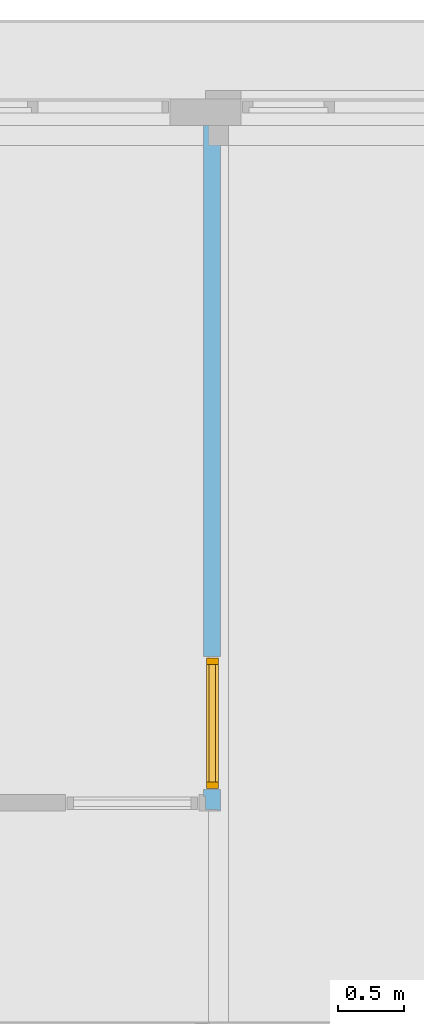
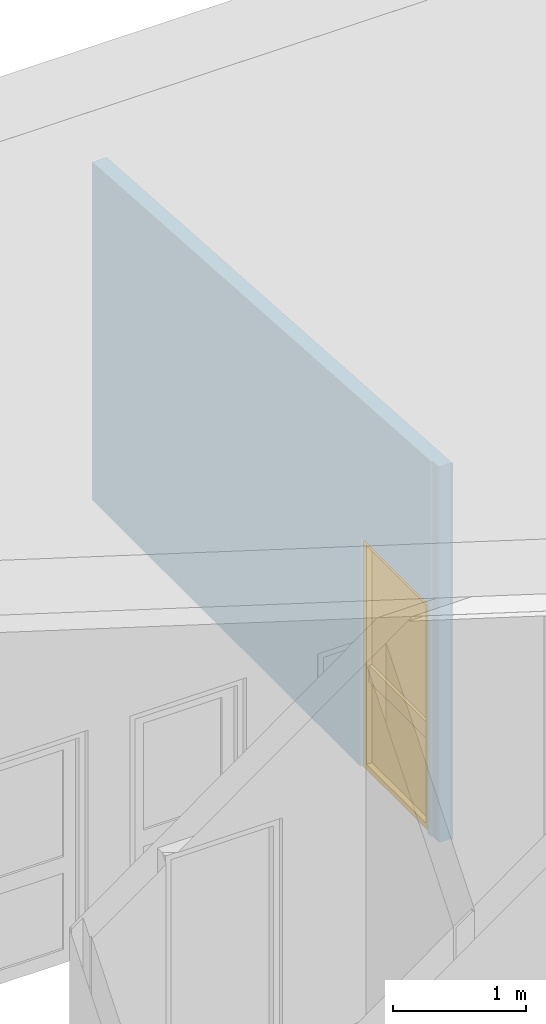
# One storey, part 24 of 37: 1 window, 1 opening, plus 1 element that does not belong to this part.
"""IFC2X3 building model written with IfcOpenShell, lengths in millimetres."""

from ifc_helpers import new_model, entity, si_unit, converted_unit, frame, frame_2d, origin, origin_with_axes, place, context, subcontext, project, spatial, polyline, rectangle, outline, extrude, clip, halfspace, faceted_brep, material, layer, layer_set, layer_usage, type_object, element, fill, save


model = new_model("IFC2X3")

# Units and contexts
model_context = context("Model", 3, precision=1e-05, world=origin())
plan_context = context("Plan", 3, precision=1e-05, world=origin())
body_context = subcontext(model_context, "Body", "Model", "MODEL_VIEW")
ifc_project = project(units=[si_unit("LENGTHUNIT", "METRE", prefix="MILLI"), converted_unit("PLANEANGLEUNIT", "DEGREE", entity("IfcPlaneAngleMeasure", 0.0174532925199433), si_unit("PLANEANGLEUNIT", "RADIAN"), dimensions=[0, 0, 0, 0, 0, 0, 0]), si_unit("AREAUNIT", "SQUARE_METRE"), si_unit("VOLUMEUNIT", "CUBIC_METRE")], contexts=[model_context, plan_context])

# Building, storey
building_placement = place(None, origin())
building = spatial("IfcBuilding", under=ifc_project, at=building_placement, Name="HEKF Administrasjonbygg", CompositionType="ELEMENT")
storey_placement = place(building_placement, frame((0.0, 0.0, 9900.0), z_axis=(0.0, 0.0, 1.0), x_axis=(1.0, 0.0, 0.0)))
storey = spatial("IfcBuildingStorey", under=building, at=storey_placement, Name="Plan 2", CompositionType="ELEMENT", Elevation=9900.0)

# Wall, opening, window
ifc_material_1 = material(Name="gips")
ifc_layer_1 = layer(ifc_material_1, 13.0)
ifc_material_2 = material(Name="riegel stål 100")
ifc_layer_2 = layer(ifc_material_2, 100.0)
ifc_material_3 = material(Name="gips")
ifc_layer_3 = layer(ifc_material_3, 13.0)
ifc_layer_set = layer_set([ifc_layer_1, ifc_layer_2, ifc_layer_3])
ifc_layer_usage = layer_usage(ifc_layer_set, "AXIS2", "POSITIVE", 0.0)
wall_placement = place(storey_placement, frame((25013.0, -5201.0, 0.0), z_axis=(0.0, 0.0, 1.0), x_axis=(0.0, 1.0, 0.0)))
wall = element("IfcWallStandardCase", 1, at=wall_placement, inside=storey, material=ifc_layer_usage, context=body_context, shape_type="Clipping", body=[
    clip(extrude(outline(polyline([(113.0, 126.0), (113.0, 113.0), (13.0, 113.0), (13.0, 13.0), (0.0, 13.0), (0.0, 0.0), (5201.0, 0.0), (5201.0, 126.0), (113.0, 126.0)])), origin_with_axes(), (0.0, 0.0, 1.0), 3446.733333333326), halfspace(frame((0.0, 0.0, 3446.733333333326), z_axis=(-0.06651901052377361, 1.85606354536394e-15, -0.9977851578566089), x_axis=(0.9977851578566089, 0.0, -0.06651901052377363)), True)),
])
opening_placement = place(wall_placement, frame((163.0, 0.0, 0.0), z_axis=(0.0, 1.0, 0.0), x_axis=(0.0, 0.0, 1.0)))
opening = element("IfcOpeningElement", 2, at=opening_placement, cuts=wall, Name="Window opening", ObjectType="Opening", context=body_context, shape_type="SweptSolid", body=[
    extrude(rectangle(XDim=2110.0, YDim=1010.0, at=frame_2d((1055.0, 505.0), x_axis=(1.0, 0.0))), origin_with_axes(), (0.0, 0.0, 1.0), 126.0),
])
ifc_material_4 = material()
window_style = type_object("IfcWindowStyle", Name="IV101", ConstructionType="NOTDEFINED", OperationType="USERDEFINED", ParameterTakesPrecedence=False, Sizeable=False)
window_placement = place(opening_placement, frame((0.0, 0.0, 0.0), z_axis=(1.0, 0.0, 0.0), x_axis=(0.0, 1.0, 0.0)))
window = element("IfcWindow", 3, at=window_placement, inside=storey, type_object=window_style, material=ifc_material_4, Name="IV101", OverallHeight=2110.0, OverallWidth=1010.0, context=body_context, shape_type="Brep", body=[
    faceted_brep([(10.00000000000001, 106.0000000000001, 2100.0), (10.00000000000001, 106.0, -2.816687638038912e-15), (60.00000000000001, 106.0, -2.816687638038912e-15), (60.00000000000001, 106.0000000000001, 2100.0), (10.0, 14.0, 2.816687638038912e-15), (10.0, 14.00000000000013, 2100.0), (60.0, 14.00000000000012, 2100.0), (60.0, 14.0, 2.816687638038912e-15), (10.00000000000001, 106.0, -2.816687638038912e-15), (10.00000000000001, 106.0000000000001, 2100.0), (10.0, 14.00000000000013, 2100.0), (10.0, 14.0, 2.816687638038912e-15), (60.00000000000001, 106.0, -2.816687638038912e-15), (10.00000000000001, 106.0, -2.816687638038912e-15), (10.0, 14.0, 2.816687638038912e-15), (60.0, 14.0, 2.816687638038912e-15), (60.00000000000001, 106.0000000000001, 2100.0), (60.00000000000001, 106.0, -2.816687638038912e-15), (60.0, 14.0, 2.816687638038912e-15), (60.0, 14.00000000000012, 2100.0), (10.00000000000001, 106.0000000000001, 2100.0), (60.00000000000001, 106.0000000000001, 2100.0), (60.0, 14.00000000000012, 2100.0), (10.0, 14.00000000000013, 2100.0)], [[[0, 1, 2, 3]], [[4, 5, 6, 7]], [[8, 9, 10, 11]], [[12, 13, 14, 15]], [[16, 17, 18, 19]], [[20, 21, 22, 23]]], orient=[[False], [False], [False], [False], [False], [False]]),
    faceted_brep([(950.0, 106.0000000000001, 2100.0), (950.0, 105.9999999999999, -2.816687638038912e-15), (1000.0, 105.9999999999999, -2.816687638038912e-15), (1000.0, 106.0000000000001, 2100.0), (950.0, 13.99999999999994, 2.816687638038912e-15), (950.0, 14.00000000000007, 2100.0), (1000.0, 14.00000000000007, 2100.0), (1000.0, 13.99999999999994, 2.816687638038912e-15), (950.0, 105.9999999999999, -2.816687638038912e-15), (950.0, 106.0000000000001, 2100.0), (950.0, 14.00000000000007, 2100.0), (950.0, 13.99999999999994, 2.816687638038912e-15), (1000.0, 105.9999999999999, -2.816687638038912e-15), (950.0, 105.9999999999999, -2.816687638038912e-15), (950.0, 13.99999999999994, 2.816687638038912e-15), (1000.0, 13.99999999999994, 2.816687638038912e-15), (1000.0, 106.0000000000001, 2100.0), (1000.0, 105.9999999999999, -2.816687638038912e-15), (1000.0, 13.99999999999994, 2.816687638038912e-15), (1000.0, 14.00000000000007, 2100.0), (950.0, 106.0000000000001, 2100.0), (1000.0, 106.0000000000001, 2100.0), (1000.0, 14.00000000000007, 2100.0), (950.0, 14.00000000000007, 2100.0)], [[[0, 1, 2, 3]], [[4, 5, 6, 7]], [[8, 9, 10, 11]], [[12, 13, 14, 15]], [[16, 17, 18, 19]], [[20, 21, 22, 23]]], orient=[[False], [False], [False], [False], [False], [False]]),
    faceted_brep([(60.00000000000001, 106.0, 50.0), (60.00000000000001, 106.0, -2.816687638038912e-15), (949.9999999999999, 105.9999999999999, -2.816687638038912e-15), (949.9999999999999, 105.9999999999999, 50.0), (60.0, 14.0, 2.816687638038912e-15), (60.0, 14.0, 50.00000000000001), (949.9999999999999, 13.99999999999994, 50.00000000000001), (949.9999999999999, 13.99999999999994, 2.816687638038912e-15), (60.00000000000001, 106.0, -2.816687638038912e-15), (60.00000000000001, 106.0, 50.0), (60.0, 14.0, 50.00000000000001), (60.0, 14.0, 2.816687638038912e-15), (949.9999999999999, 105.9999999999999, -2.816687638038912e-15), (60.00000000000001, 106.0, -2.816687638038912e-15), (60.0, 14.0, 2.816687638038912e-15), (949.9999999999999, 13.99999999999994, 2.816687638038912e-15), (949.9999999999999, 105.9999999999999, 50.0), (949.9999999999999, 105.9999999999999, -2.816687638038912e-15), (949.9999999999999, 13.99999999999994, 2.816687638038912e-15), (949.9999999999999, 13.99999999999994, 50.00000000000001), (60.00000000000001, 106.0, 50.0), (949.9999999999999, 105.9999999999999, 50.0), (949.9999999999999, 13.99999999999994, 50.00000000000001), (60.0, 14.0, 50.00000000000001)], [[[0, 1, 2, 3]], [[4, 5, 6, 7]], [[8, 9, 10, 11]], [[12, 13, 14, 15]], [[16, 17, 18, 19]], [[20, 21, 22, 23]]], orient=[[False], [False], [False], [False], [False], [False]]),
    faceted_brep([(60.00000000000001, 106.0000000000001, 2100.000000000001), (60.00000000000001, 106.0000000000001, 2050.000000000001), (949.9999999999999, 106.0000000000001, 2050.000000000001), (949.9999999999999, 106.0000000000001, 2100.000000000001), (60.0, 14.00000000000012, 2050.000000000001), (60.0, 14.00000000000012, 2100.000000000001), (949.9999999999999, 14.00000000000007, 2100.000000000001), (949.9999999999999, 14.00000000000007, 2050.000000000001), (60.00000000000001, 106.0000000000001, 2050.000000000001), (60.00000000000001, 106.0000000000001, 2100.000000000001), (60.0, 14.00000000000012, 2100.000000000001), (60.0, 14.00000000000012, 2050.000000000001), (949.9999999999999, 106.0000000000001, 2050.000000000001), (60.00000000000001, 106.0000000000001, 2050.000000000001), (60.0, 14.00000000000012, 2050.000000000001), (949.9999999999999, 14.00000000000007, 2050.000000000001), (949.9999999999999, 106.0000000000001, 2100.000000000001), (949.9999999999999, 106.0000000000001, 2050.000000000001), (949.9999999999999, 14.00000000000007, 2050.000000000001), (949.9999999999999, 14.00000000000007, 2100.000000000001), (60.00000000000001, 106.0000000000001, 2100.000000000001), (949.9999999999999, 106.0000000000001, 2100.000000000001), (949.9999999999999, 14.00000000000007, 2100.000000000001), (60.0, 14.00000000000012, 2100.000000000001)], [[[0, 1, 2, 3]], [[4, 5, 6, 7]], [[8, 9, 10, 11]], [[12, 13, 14, 15]], [[16, 17, 18, 19]], [[20, 21, 22, 23]]], orient=[[False], [False], [False], [False], [False], [False]]),
    faceted_brep([(60.00000000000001, 85.00000000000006, 950.0), (60.00000000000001, 85.00000000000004, 800.0), (949.9999999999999, 84.99999999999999, 800.0), (949.9999999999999, 85.0, 950.0), (60.00000000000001, 35.00000000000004, 800.0), (60.00000000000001, 35.00000000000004, 950.0), (949.9999999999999, 34.99999999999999, 950.0), (949.9999999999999, 34.99999999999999, 800.0), (60.00000000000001, 85.00000000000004, 800.0), (60.00000000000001, 85.00000000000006, 950.0), (60.00000000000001, 35.00000000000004, 950.0), (60.00000000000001, 35.00000000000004, 800.0), (949.9999999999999, 84.99999999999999, 800.0), (60.00000000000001, 85.00000000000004, 800.0), (60.00000000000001, 35.00000000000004, 800.0), (949.9999999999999, 34.99999999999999, 800.0), (949.9999999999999, 85.0, 950.0), (949.9999999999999, 84.99999999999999, 800.0), (949.9999999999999, 34.99999999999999, 800.0), (949.9999999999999, 34.99999999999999, 950.0), (60.00000000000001, 85.00000000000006, 950.0), (949.9999999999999, 85.0, 950.0), (949.9999999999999, 34.99999999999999, 950.0), (60.00000000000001, 35.00000000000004, 950.0)], [[[0, 1, 2, 3]], [[4, 5, 6, 7]], [[8, 9, 10, 11]], [[12, 13, 14, 15]], [[16, 17, 18, 19]], [[20, 21, 22, 23]]], orient=[[False], [False], [False], [False], [False], [False]]),
    faceted_brep([(60.00000000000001, 59.99999999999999, 50.0), (949.9999999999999, 59.99999999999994, 50.0), (949.9999999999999, 59.99999999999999, 800.0), (60.00000000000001, 60.00000000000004, 800.0), (60.00000000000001, 58.99999999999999, 50.0), (60.00000000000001, 59.00000000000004, 800.0), (949.9999999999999, 58.99999999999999, 800.0), (949.9999999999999, 58.99999999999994, 50.0), (60.00000000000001, 59.99999999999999, 50.0), (60.00000000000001, 58.99999999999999, 50.0), (949.9999999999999, 58.99999999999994, 50.0), (949.9999999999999, 59.99999999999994, 50.0), (949.9999999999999, 59.99999999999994, 50.0), (949.9999999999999, 58.99999999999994, 50.0), (949.9999999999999, 58.99999999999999, 800.0), (949.9999999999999, 59.99999999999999, 800.0), (949.9999999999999, 59.99999999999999, 800.0), (949.9999999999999, 58.99999999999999, 800.0), (60.00000000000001, 59.00000000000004, 800.0), (60.00000000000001, 60.00000000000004, 800.0), (60.00000000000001, 60.00000000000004, 800.0), (60.00000000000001, 59.00000000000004, 800.0), (60.00000000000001, 58.99999999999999, 50.0), (60.00000000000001, 59.99999999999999, 50.0)], [[[0, 1, 2, 3]], [[4, 5, 6, 7]], [[8, 9, 10, 11]], [[12, 13, 14, 15]], [[16, 17, 18, 19]], [[20, 21, 22, 23]]], orient=[[False], [False], [False], [False], [False], [False]]),
    faceted_brep([(60.00000000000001, 60.00000000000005, 950.0000000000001), (949.9999999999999, 60.0, 950.0000000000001), (949.9999999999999, 60.00000000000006, 2050.000000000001), (60.00000000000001, 60.00000000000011, 2050.000000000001), (60.00000000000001, 59.00000000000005, 950.0000000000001), (60.00000000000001, 59.00000000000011, 2050.000000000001), (949.9999999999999, 59.00000000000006, 2050.000000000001), (949.9999999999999, 59.0, 950.0000000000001), (60.00000000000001, 60.00000000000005, 950.0000000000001), (60.00000000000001, 59.00000000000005, 950.0000000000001), (949.9999999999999, 59.0, 950.0000000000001), (949.9999999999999, 60.0, 950.0000000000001), (949.9999999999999, 60.0, 950.0000000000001), (949.9999999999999, 59.0, 950.0000000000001), (949.9999999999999, 59.00000000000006, 2050.000000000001), (949.9999999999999, 60.00000000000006, 2050.000000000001), (949.9999999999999, 60.00000000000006, 2050.000000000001), (949.9999999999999, 59.00000000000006, 2050.000000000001), (60.00000000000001, 59.00000000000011, 2050.000000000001), (60.00000000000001, 60.00000000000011, 2050.000000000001), (60.00000000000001, 60.00000000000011, 2050.000000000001), (60.00000000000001, 59.00000000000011, 2050.000000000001), (60.00000000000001, 59.00000000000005, 950.0000000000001), (60.00000000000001, 60.00000000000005, 950.0000000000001)], [[[0, 1, 2, 3]], [[4, 5, 6, 7]], [[8, 9, 10, 11]], [[12, 13, 14, 15]], [[16, 17, 18, 19]], [[20, 21, 22, 23]]], orient=[[False], [False], [False], [False], [False], [False]]),
])
fill(opening, window)

save(model, "model.ifc")
